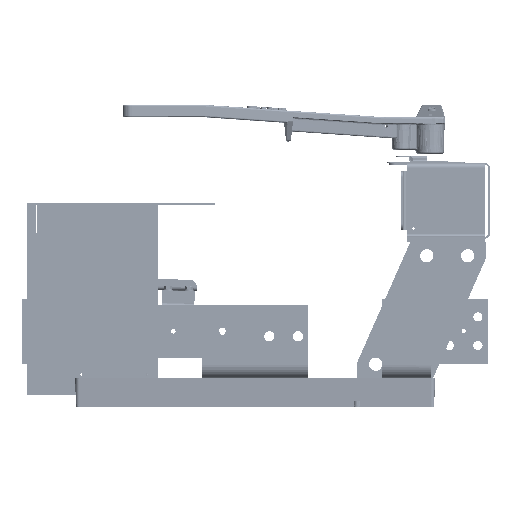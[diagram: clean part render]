
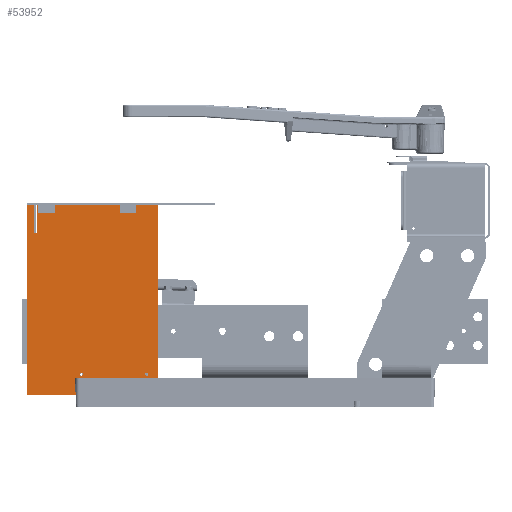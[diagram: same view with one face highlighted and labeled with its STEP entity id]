
A CAD part, left-side view. The second image highlights one B-rep face of the part: STEP entity #53952.
In plain terms, the highlighted planar face has unit normal (-1, 0, 0) as drawn and (0, 0, -1) by its records, which use the part's own axes.
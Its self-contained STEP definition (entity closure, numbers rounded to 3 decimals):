
#2868=FACE_BOUND('',#12055,.T.);
#2869=FACE_BOUND('',#12056,.T.);
#2870=FACE_BOUND('',#12057,.T.);
#2871=FACE_BOUND('',#12058,.T.);
#4801=CIRCLE('',#59581,0.097);
#4803=CIRCLE('',#59584,0.097);
#4805=CIRCLE('',#59587,0.097);
#4807=CIRCLE('',#59590,0.097);
#8471=FACE_OUTER_BOUND('',#12054,.T.);
#12054=EDGE_LOOP('',(#46781,#46782,#46783,#46784,#46785,#46786,#46787,#46788,
#46789,#46790,#46791,#46792));
#12055=EDGE_LOOP('',(#46793));
#12056=EDGE_LOOP('',(#46794));
#12057=EDGE_LOOP('',(#46795));
#12058=EDGE_LOOP('',(#46796));
#16483=LINE('',#94527,#20998);
#16487=LINE('',#94535,#21002);
#16490=LINE('',#94541,#21005);
#16493=LINE('',#94547,#21008);
#16496=LINE('',#94553,#21011);
#16499=LINE('',#94559,#21014);
#16502=LINE('',#94565,#21017);
#16505=LINE('',#94571,#21020);
#16508=LINE('',#94577,#21023);
#16511=LINE('',#94583,#21026);
#16514=LINE('',#94589,#21029);
#16517=LINE('',#94594,#21032);
#20998=VECTOR('',#72773,0.394);
#21002=VECTOR('',#72779,0.394);
#21005=VECTOR('',#72784,0.394);
#21008=VECTOR('',#72789,0.394);
#21011=VECTOR('',#72794,0.394);
#21014=VECTOR('',#72799,0.394);
#21017=VECTOR('',#72804,0.394);
#21020=VECTOR('',#72809,0.394);
#21023=VECTOR('',#72814,0.394);
#21026=VECTOR('',#72819,0.394);
#21029=VECTOR('',#72824,0.394);
#21032=VECTOR('',#72829,0.394);
#25803=VERTEX_POINT('',#94501);
#25805=VERTEX_POINT('',#94507);
#25807=VERTEX_POINT('',#94513);
#25809=VERTEX_POINT('',#94519);
#25811=VERTEX_POINT('',#94525);
#25812=VERTEX_POINT('',#94526);
#25815=VERTEX_POINT('',#94534);
#25817=VERTEX_POINT('',#94540);
#25819=VERTEX_POINT('',#94546);
#25821=VERTEX_POINT('',#94552);
#25823=VERTEX_POINT('',#94558);
#25825=VERTEX_POINT('',#94564);
#25827=VERTEX_POINT('',#94570);
#25829=VERTEX_POINT('',#94576);
#25831=VERTEX_POINT('',#94582);
#25833=VERTEX_POINT('',#94588);
#32925=EDGE_CURVE('',#25803,#25803,#4801,.T.);
#32928=EDGE_CURVE('',#25805,#25805,#4803,.T.);
#32931=EDGE_CURVE('',#25807,#25807,#4805,.T.);
#32934=EDGE_CURVE('',#25809,#25809,#4807,.T.);
#32937=EDGE_CURVE('',#25811,#25812,#16483,.T.);
#32941=EDGE_CURVE('',#25815,#25811,#16487,.T.);
#32944=EDGE_CURVE('',#25817,#25815,#16490,.T.);
#32947=EDGE_CURVE('',#25819,#25817,#16493,.T.);
#32950=EDGE_CURVE('',#25821,#25819,#16496,.T.);
#32953=EDGE_CURVE('',#25823,#25821,#16499,.T.);
#32956=EDGE_CURVE('',#25825,#25823,#16502,.T.);
#32959=EDGE_CURVE('',#25827,#25825,#16505,.T.);
#32962=EDGE_CURVE('',#25829,#25827,#16508,.T.);
#32965=EDGE_CURVE('',#25831,#25829,#16511,.T.);
#32968=EDGE_CURVE('',#25833,#25831,#16514,.T.);
#32971=EDGE_CURVE('',#25812,#25833,#16517,.T.);
#46781=ORIENTED_EDGE('',*,*,#32971,.F.);
#46782=ORIENTED_EDGE('',*,*,#32937,.F.);
#46783=ORIENTED_EDGE('',*,*,#32941,.F.);
#46784=ORIENTED_EDGE('',*,*,#32944,.F.);
#46785=ORIENTED_EDGE('',*,*,#32947,.F.);
#46786=ORIENTED_EDGE('',*,*,#32950,.F.);
#46787=ORIENTED_EDGE('',*,*,#32953,.F.);
#46788=ORIENTED_EDGE('',*,*,#32956,.F.);
#46789=ORIENTED_EDGE('',*,*,#32959,.F.);
#46790=ORIENTED_EDGE('',*,*,#32962,.F.);
#46791=ORIENTED_EDGE('',*,*,#32965,.F.);
#46792=ORIENTED_EDGE('',*,*,#32968,.F.);
#46793=ORIENTED_EDGE('',*,*,#32925,.T.);
#46794=ORIENTED_EDGE('',*,*,#32928,.T.);
#46795=ORIENTED_EDGE('',*,*,#32931,.T.);
#46796=ORIENTED_EDGE('',*,*,#32934,.T.);
#51326=PLANE('',#59605);
#53952=ADVANCED_FACE('',(#8471,#2868,#2869,#2870,#2871),#51326,.F.);
#59581=AXIS2_PLACEMENT_3D('',#94502,#72745,#72746);
#59584=AXIS2_PLACEMENT_3D('',#94508,#72752,#72753);
#59587=AXIS2_PLACEMENT_3D('',#94514,#72759,#72760);
#59590=AXIS2_PLACEMENT_3D('',#94520,#72766,#72767);
#59605=AXIS2_PLACEMENT_3D('',#94597,#72833,#72834);
#72745=DIRECTION('center_axis',(0.,0.,1.));
#72746=DIRECTION('ref_axis',(-1.,0.,0.));
#72752=DIRECTION('center_axis',(0.,0.,1.));
#72753=DIRECTION('ref_axis',(-1.,0.,0.));
#72759=DIRECTION('center_axis',(0.,0.,1.));
#72760=DIRECTION('ref_axis',(-1.,0.,0.));
#72766=DIRECTION('center_axis',(0.,0.,1.));
#72767=DIRECTION('ref_axis',(-1.,0.,0.));
#72773=DIRECTION('',(1.,0.,0.));
#72779=DIRECTION('',(0.,1.,0.));
#72784=DIRECTION('',(1.,0.,0.));
#72789=DIRECTION('',(0.,-1.,0.));
#72794=DIRECTION('',(-1.,0.,0.));
#72799=DIRECTION('',(0.,-1.,0.));
#72804=DIRECTION('',(1.,0.,0.));
#72809=DIRECTION('',(0.,-1.,0.));
#72814=DIRECTION('',(-1.,0.,0.));
#72819=DIRECTION('',(0.,1.,0.));
#72824=DIRECTION('',(1.,0.,0.));
#72829=DIRECTION('',(0.,-1.,0.));
#72833=DIRECTION('center_axis',(0.,0.,1.));
#72834=DIRECTION('ref_axis',(1.,0.,0.));
#94501=CARTESIAN_POINT('',(0.347,2.,0.));
#94502=CARTESIAN_POINT('Origin',(0.25,2.,0.));
#94507=CARTESIAN_POINT('',(0.347,7.,0.));
#94508=CARTESIAN_POINT('Origin',(0.25,7.,0.));
#94513=CARTESIAN_POINT('',(10.472,0.688,0.));
#94514=CARTESIAN_POINT('Origin',(10.375,0.688,0.));
#94519=CARTESIAN_POINT('',(10.472,4.688,0.));
#94520=CARTESIAN_POINT('Origin',(10.375,4.688,0.));
#94525=CARTESIAN_POINT('',(10.625,5.094,0.));
#94526=CARTESIAN_POINT('',(11.156,5.094,0.));
#94527=CARTESIAN_POINT('',(10.625,5.094,0.));
#94534=CARTESIAN_POINT('',(10.625,0.,0.));
#94535=CARTESIAN_POINT('',(10.625,0.,0.));
#94540=CARTESIAN_POINT('',(0.,0.,0.));
#94541=CARTESIAN_POINT('',(0.,0.,0.));
#94546=CARTESIAN_POINT('',(0.,7.422,0.));
#94547=CARTESIAN_POINT('',(0.,7.422,0.));
#94552=CARTESIAN_POINT('',(1.75,7.422,0.));
#94553=CARTESIAN_POINT('',(1.75,7.422,0.));
#94558=CARTESIAN_POINT('',(1.75,7.578,0.));
#94559=CARTESIAN_POINT('',(1.75,7.578,0.));
#94564=CARTESIAN_POINT('',(0.,7.578,0.));
#94565=CARTESIAN_POINT('',(0.,7.578,0.));
#94570=CARTESIAN_POINT('',(0.,8.,0.));
#94571=CARTESIAN_POINT('',(0.,8.,0.));
#94576=CARTESIAN_POINT('',(11.625,8.,0.));
#94577=CARTESIAN_POINT('',(11.625,8.,0.));
#94582=CARTESIAN_POINT('',(11.625,4.719,0.));
#94583=CARTESIAN_POINT('',(11.625,4.719,0.));
#94588=CARTESIAN_POINT('',(11.156,4.719,0.));
#94589=CARTESIAN_POINT('',(11.156,4.719,0.));
#94594=CARTESIAN_POINT('',(11.156,5.094,0.));
#94597=CARTESIAN_POINT('Origin',(5.401,4.41,0.));
